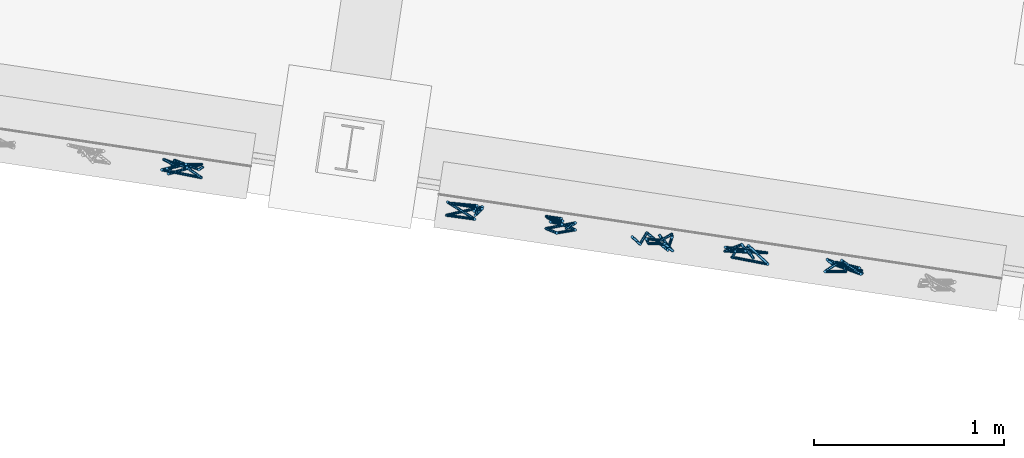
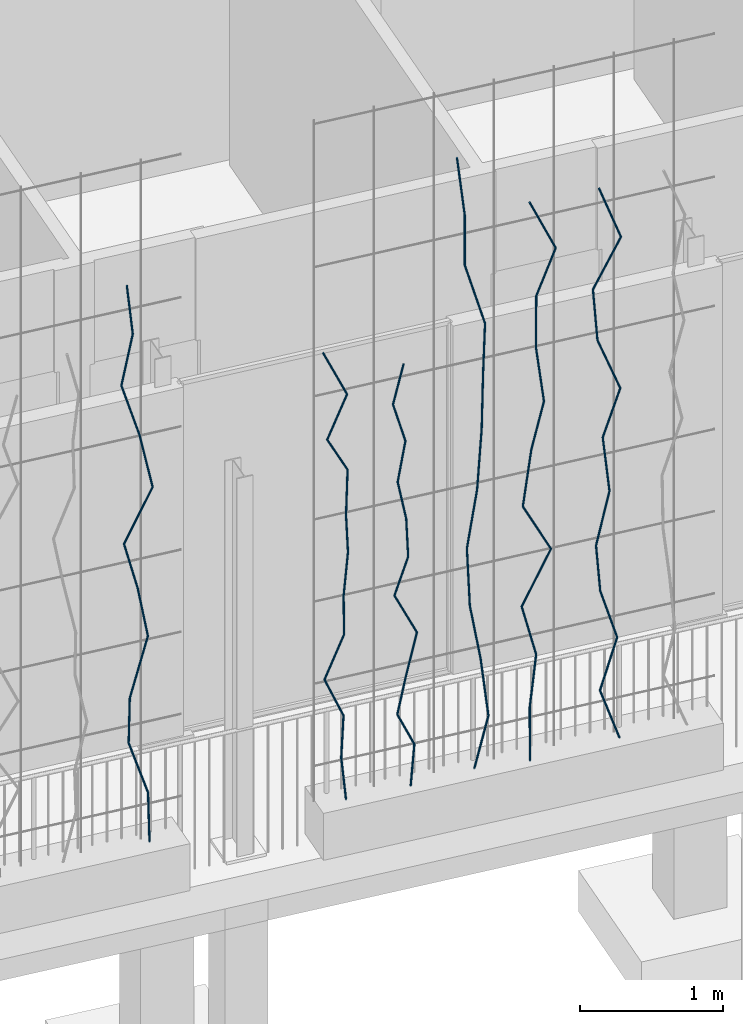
# One storey, part 121 of 143: 66 members, 1 element without a shape of its own.
"""IFC4 building model written with IfcOpenShell, lengths in metres."""

from ifc_helpers import new_model, si_unit, direction, frame, origin_with_axes, place, context, subcontext, project, spatial, circle, extrude, material, material_profile, profile_set, profile_usage, type_object, element, aggregate, save


model = new_model("IFC4")

# Units and contexts
model_context = context("Model", 3, precision=1e-05, world=origin_with_axes(), true_north=direction((0.0, 1.0)))
body_context = subcontext(model_context, "Body", "Model", "MODEL_VIEW")
ifc_project = project(units=[si_unit("VOLUMEUNIT", "CUBIC_METRE"), si_unit("LENGTHUNIT", "METRE"), si_unit("AREAUNIT", "SQUARE_METRE")], contexts=[model_context])

# Site, building, storey
site_placement = place(None, origin_with_axes())
site = spatial("IfcSite", under=ifc_project, at=site_placement, Name="Lares · Rua das Mercês · artigo 4771")
building_placement = place(site_placement, frame((15.0, 9.7, 15.8), z_axis=(0.0, 0.0, 1.0), x_axis=(0.989015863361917, -0.147809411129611, 0.0)))
building = spatial("IfcBuilding", under=site, at=building_placement, Name="Casa Sobreposta")
storey_placement = place(building_placement, origin_with_axes())
storey = spatial("IfcBuildingStorey", under=building, at=storey_placement, Name="00 · Habitação e estacionamento", Elevation=15.8)

# Assembly, members
assembly_placement = place(storey_placement, origin_with_axes())
assembly = element("IfcElementAssembly", 1, at=assembly_placement, inside=storey, Name="Fachada sul e pátio · estrutura e trepadeiras", ObjectType="LIVING_SHADE_TRELLIS", PredefinedType="USERDEFINED")
ifc_material = material(Name="Ramos de trepadeiras", Category="wood")
ifc_material_profile = material_profile(ifc_material, circle(Radius=0.0075))
ifc_profile_set = profile_set([ifc_material_profile], Name="D0.015")
ifc_profile_usage_1 = profile_usage(ifc_profile_set)
member_type = type_object("IfcMemberType", Name="D0.015 / vine_wood", PredefinedType="NOTDEFINED", material=ifc_profile_set)
member_1_placement = place(assembly_placement, frame((11.248102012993, -1.65190370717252, 0.35), z_axis=(-0.0386935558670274, -0.034357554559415, 0.998660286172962), x_axis=(-0.663967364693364, 0.747761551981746, 0.0)))
member_1 = element("IfcMember", 2, at=member_1_placement, type_object=member_type, material=ifc_profile_usage_1, Name="Trepadeiras · ramo", context=body_context, shape_type="SweptSolid", body=[
    extrude(circle(Radius=0.0075), origin_with_axes(), (0.0, 0.0, 1.0), 0.438063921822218),
])
ifc_profile_usage_2 = profile_usage(ifc_profile_set)
member_2_placement = place(assembly_placement, frame((11.2311517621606, -1.66695451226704, 0.787477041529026), z_axis=(-0.292111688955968, 0.0645743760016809, 0.954201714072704), x_axis=(0.215849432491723, 0.976426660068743, 0.0)))
member_2 = element("IfcMember", 3, at=member_2_placement, type_object=member_type, material=ifc_profile_usage_2, Name="Trepadeiras · ramo", context=body_context, shape_type="SweptSolid", body=[
    extrude(circle(Radius=0.0075), origin_with_axes(), (0.0, 0.0, 1.0), 0.458474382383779),
])
ifc_profile_usage_3 = profile_usage(ifc_profile_set)
member_3_placement = place(assembly_placement, frame((11.0972260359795, -1.63734881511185, 1.22495408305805), z_axis=(-0.0480043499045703, -0.17064406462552, 0.984162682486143), x_axis=(-0.962635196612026, 0.270801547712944, 0.0)))
member_3 = element("IfcMember", 4, at=member_3_placement, type_object=member_type, material=ifc_profile_usage_3, Name="Trepadeiras · ramo", context=body_context, shape_type="SweptSolid", body=[
    extrude(circle(Radius=0.0075), origin_with_axes(), (0.0, 0.0, 1.0), 0.44451699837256),
])
ifc_profile_usage_4 = profile_usage(ifc_profile_set)
member_4_placement = place(assembly_placement, frame((11.0758872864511, -1.71320300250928, 1.66243112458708), z_axis=(0.349610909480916, 0.159453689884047, 0.923226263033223), x_axis=(0.414966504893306, -0.909836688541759, 0.0)))
member_4 = element("IfcMember", 5, at=member_4_placement, type_object=member_type, material=ifc_profile_usage_4, Name="Trepadeiras · ramo", context=body_context, shape_type="SweptSolid", body=[
    extrude(circle(Radius=0.0075), origin_with_axes(), (0.0, 0.0, 1.0), 0.473856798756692),
])
ifc_profile_usage_5 = profile_usage(ifc_profile_set)
member_5_placement = place(assembly_placement, frame((11.2415527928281, -1.63764478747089, 2.09990816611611), z_axis=(-0.183712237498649, -0.026320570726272, 0.982627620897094), x_axis=(-0.141822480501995, 0.989892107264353, 0.0)))
member_5 = element("IfcMember", 6, at=member_5_placement, type_object=member_type, material=ifc_profile_usage_5, Name="Trepadeiras · ramo", context=body_context, shape_type="SweptSolid", body=[
    extrude(circle(Radius=0.0075), origin_with_axes(), (0.0, 0.0, 1.0), 0.445211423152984),
])
ifc_profile_usage_6 = profile_usage(ifc_profile_set)
member_6_placement = place(assembly_placement, frame((11.1597620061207, -1.64936300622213, 2.53738520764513), z_axis=(-0.265224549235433, -0.105236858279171, 0.958426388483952), x_axis=(-0.368812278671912, 0.92950390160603, 0.0)))
member_6 = element("IfcMember", 7, at=member_6_placement, type_object=member_type, material=ifc_profile_usage_6, Name="Trepadeiras · ramo", context=body_context, shape_type="SweptSolid", body=[
    extrude(circle(Radius=0.0075), origin_with_axes(), (0.0, 0.0, 1.0), 0.456453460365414),
])
ifc_profile_usage_7 = profile_usage(ifc_profile_set)
member_7_placement = place(assembly_placement, frame((11.0386993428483, -1.69739873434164, 2.97486224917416), z_axis=(0.434271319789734, -0.0200254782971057, 0.900559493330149), x_axis=(-0.0460638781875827, -0.998938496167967, 0.0)))
member_7 = element("IfcMember", 8, at=member_7_placement, type_object=member_type, material=ifc_profile_usage_7, Name="Trepadeiras · ramo", context=body_context, shape_type="SweptSolid", body=[
    extrude(circle(Radius=0.0075), origin_with_axes(), (0.0, 0.0, 1.0), 0.485783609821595),
])
ifc_profile_usage_8 = profile_usage(ifc_profile_set)
member_8_placement = place(assembly_placement, frame((11.2496612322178, -1.70712678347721, 3.41233929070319), z_axis=(-0.183988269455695, 0.092285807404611, 0.97858655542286), x_axis=(0.448346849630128, 0.893859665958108, 0.0)))
member_8 = element("IfcMember", 9, at=member_8_placement, type_object=member_type, material=ifc_profile_usage_8, Name="Trepadeiras · ramo", context=body_context, shape_type="SweptSolid", body=[
    extrude(circle(Radius=0.0075), origin_with_axes(), (0.0, 0.0, 1.0), 0.447049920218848),
])
ifc_profile_usage_9 = profile_usage(ifc_profile_set)
member_9_placement = place(assembly_placement, frame((11.1674092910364, -1.66587042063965, 3.84981633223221), z_axis=(-0.277576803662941, 0.0517158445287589, 0.959310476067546), x_axis=(0.183160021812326, 0.983083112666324, 0.0)))
member_9 = element("IfcMember", 10, at=member_9_placement, type_object=member_type, material=ifc_profile_usage_9, Name="Trepadeiras · ramo", context=body_context, shape_type="SweptSolid", body=[
    extrude(circle(Radius=0.0075), origin_with_axes(), (0.0, 0.0, 1.0), 0.456032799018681),
])
ifc_profile_usage_10 = profile_usage(ifc_profile_set)
member_10_placement = place(assembly_placement, frame((11.0408251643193, -1.64228629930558, 4.28729337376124), z_axis=(0.169074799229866, -0.0585839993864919, 0.983860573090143), x_axis=(-0.327400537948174, -0.944885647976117, 0.0)))
member_10 = element("IfcMember", 11, at=member_10_placement, type_object=member_type, material=ifc_profile_usage_10, Name="Trepadeiras · ramo", context=body_context, shape_type="SweptSolid", body=[
    extrude(circle(Radius=0.0075), origin_with_axes(), (0.0, 0.0, 1.0), 0.444653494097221),
])
ifc_profile_usage_11 = profile_usage(ifc_profile_set)
member_11_placement = place(assembly_placement, frame((11.1160048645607, -1.66833587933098, 4.72477041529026), z_axis=(-0.117255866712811, -0.0408900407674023, 0.992259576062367), x_axis=(-0.32927761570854, 0.944233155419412, 6.93059025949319e-18)))
member_11 = element("IfcMember", 12, at=member_11_placement, type_object=member_type, material=ifc_profile_usage_11, Name="Trepadeiras · ramo", context=body_context, shape_type="SweptSolid", body=[
    extrude(circle(Radius=0.0075), origin_with_axes(), (0.0, 0.0, 1.0), 0.440889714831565),
])
ifc_profile_usage_12 = profile_usage(ifc_profile_set)
member_12_placement = place(assembly_placement, frame((12.7127933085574, -1.67677360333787, 0.35), z_axis=(-0.0708595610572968, 0.0849373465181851, 0.993863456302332), x_axis=(0.767872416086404, 0.640602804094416, 0.0)))
member_12 = element("IfcMember", 13, at=member_12_placement, type_object=member_type, material=ifc_profile_usage_12, Name="Trepadeiras · ramo", context=body_context, shape_type="SweptSolid", body=[
    extrude(circle(Radius=0.0075), origin_with_axes(), (0.0, 0.0, 1.0), 0.350241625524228),
])
ifc_profile_usage_13 = profile_usage(ifc_profile_set)
member_13_placement = place(assembly_placement, frame((12.6879753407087, -1.64702500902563, 0.698092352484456), z_axis=(0.057899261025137, 0.0226262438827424, 0.998065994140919), x_axis=(0.363980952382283, -0.931406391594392, 0.0)))
member_13 = element("IfcMember", 14, at=member_13_placement, type_object=member_type, material=ifc_profile_usage_13, Name="Trepadeiras · ramo", context=body_context, shape_type="SweptSolid", body=[
    extrude(circle(Radius=0.0075), origin_with_axes(), (0.0, 0.0, 1.0), 0.348766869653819),
])
ifc_profile_usage_14 = profile_usage(ifc_profile_set)
member_14_placement = place(assembly_placement, frame((12.7081686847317, -1.63913372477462, 1.04618470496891), z_axis=(-0.385457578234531, -0.0204208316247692, 0.922499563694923), x_axis=(-0.0529039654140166, 0.998599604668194, 0.0)))
member_14 = element("IfcMember", 15, at=member_14_placement, type_object=member_type, material=ifc_profile_usage_14, Name="Trepadeiras · ramo", context=body_context, shape_type="SweptSolid", body=[
    extrude(circle(Radius=0.0075), origin_with_axes(), (0.0, 0.0, 1.0), 0.377336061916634),
])
ifc_profile_usage_15 = profile_usage(ifc_profile_set)
member_15_placement = place(assembly_placement, frame((12.5627216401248, -1.64683924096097, 1.39427705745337), z_axis=(0.386179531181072, -0.00507439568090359, 0.922409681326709), x_axis=(-0.0131388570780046, -0.9999136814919, 0.0)))
member_15 = element("IfcMember", 16, at=member_15_placement, type_object=member_type, material=ifc_profile_usage_15, Name="Trepadeiras · ramo", context=body_context, shape_type="SweptSolid", body=[
    extrude(circle(Radius=0.0075), origin_with_axes(), (0.0, 0.0, 1.0), 0.377372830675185),
])
ifc_profile_usage_16 = profile_usage(ifc_profile_set)
member_16_placement = place(assembly_placement, frame((12.7084553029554, -1.64875418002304, 1.74236940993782), z_axis=(-0.0306176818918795, -0.0562072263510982, 0.997949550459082), x_axis=(-0.878163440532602, 0.478360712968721, 0.0)))
member_16 = element("IfcMember", 17, at=member_16_placement, type_object=member_type, material=ifc_profile_usage_16, Name="Trepadeiras · ramo", context=body_context, shape_type="SweptSolid", body=[
    extrude(circle(Radius=0.0075), origin_with_axes(), (0.0, 0.0, 1.0), 0.348807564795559),
])
ifc_profile_usage_17 = profile_usage(ifc_profile_set)
member_17_placement = place(assembly_placement, frame((12.697775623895, -1.66835968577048, 2.09046176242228), z_axis=(0.112899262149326, 0.0509051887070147, 0.992301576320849), x_axis=(0.411039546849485, -0.911617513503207, 0.0)))
member_17 = element("IfcMember", 18, at=member_17_placement, type_object=member_type, material=ifc_profile_usage_17, Name="Trepadeiras · ramo", context=body_context, shape_type="SweptSolid", body=[
    extrude(circle(Radius=0.0075), origin_with_axes(), (0.0, 0.0, 1.0), 0.350792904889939),
])
ifc_profile_usage_18 = profile_usage(ifc_profile_set)
member_18_placement = place(assembly_placement, frame((12.7373798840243, -1.65050250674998, 2.43855411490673), z_axis=(-0.0853498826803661, -0.110841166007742, 0.990166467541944), x_axis=(-0.792321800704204, 0.610103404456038, 0.0)))
member_18 = element("IfcMember", 19, at=member_18_placement, type_object=member_type, material=ifc_profile_usage_18, Name="Trepadeiras · ramo", context=body_context, shape_type="SweptSolid", body=[
    extrude(circle(Radius=0.0075), origin_with_axes(), (0.0, 0.0, 1.0), 0.351549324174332),
])
ifc_profile_usage_19 = profile_usage(ifc_profile_set)
member_19_placement = place(assembly_placement, frame((12.7073751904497, -1.68946864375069, 2.78664646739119), z_axis=(0.0869008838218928, 0.137266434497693, 0.986714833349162), x_axis=(0.844915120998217, -0.534900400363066, 0.0)))
member_19 = element("IfcMember", 20, at=member_19_placement, type_object=member_type, material=ifc_profile_usage_19, Name="Trepadeiras · ramo", context=body_context, shape_type="SweptSolid", body=[
    extrude(circle(Radius=0.0075), origin_with_axes(), (0.0, 0.0, 1.0), 0.352779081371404),
])
ifc_profile_usage_20 = profile_usage(ifc_profile_set)
member_20_placement = place(assembly_placement, frame((12.7380320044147, -1.64104391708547, 3.13473881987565), z_axis=(-0.45311315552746, -0.178326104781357, 0.873434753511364), x_axis=(-0.366216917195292, 0.930529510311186, 0.0)))
member_20 = element("IfcMember", 21, at=member_20_placement, type_object=member_type, material=ifc_profile_usage_20, Name="Trepadeiras · ramo", context=body_context, shape_type="SweptSolid", body=[
    extrude(circle(Radius=0.0075), origin_with_axes(), (0.0, 0.0, 1.0), 0.398532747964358),
])
ifc_profile_usage_21 = profile_usage(ifc_profile_set)
member_21_placement = place(assembly_placement, frame((12.5574515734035, -1.71211270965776, 3.4828311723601), z_axis=(0.394669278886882, 0.00436643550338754, 0.918812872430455), x_axis=(0.0110628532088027, -0.999938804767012, 0.0)))
member_21 = element("IfcMember", 22, at=member_21_placement, type_object=member_type, material=ifc_profile_usage_21, Name="Trepadeiras · ramo", context=body_context, shape_type="SweptSolid", body=[
    extrude(circle(Radius=0.0075), origin_with_axes(), (0.0, 0.0, 1.0), 0.378850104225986),
])
ifc_profile_usage_22 = profile_usage(ifc_profile_set)
member_22_placement = place(assembly_placement, frame((12.7069720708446, -1.71045848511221, 3.83092352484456), z_axis=(-0.397772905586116, 0.174983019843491, 0.900642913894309), x_axis=(0.40266716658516, 0.915346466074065, 0.0)))
member_22 = element("IfcMember", 23, at=member_22_placement, type_object=member_type, material=ifc_profile_usage_22, Name="Trepadeiras · ramo", context=body_context, shape_type="SweptSolid", body=[
    extrude(circle(Radius=0.0075), origin_with_axes(), (0.0, 0.0, 1.0), 0.386493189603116),
])
ifc_profile_usage_23 = profile_usage(ifc_profile_set)
member_23_placement = place(assembly_placement, frame((13.1925460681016, -1.68798436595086, 0.35), z_axis=(0.129026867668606, 0.110183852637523, 0.985500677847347), x_axis=(0.64939521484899, -0.760451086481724, 0.0)))
member_23 = element("IfcMember", 24, at=member_23_placement, type_object=member_type, material=ifc_profile_usage_23, Name="Trepadeiras · ramo", context=body_context, shape_type="SweptSolid", body=[
    extrude(circle(Radius=0.0075), origin_with_axes(), (0.0, 0.0, 1.0), 0.330027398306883),
])
ifc_profile_usage_24 = profile_usage(ifc_profile_set)
member_24_placement = place(assembly_placement, frame((13.23512846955, -1.65162067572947, 0.67524222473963), z_axis=(-0.411476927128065, -0.144758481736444, 0.899850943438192), x_axis=(-0.33186451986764, 0.943327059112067, 0.0)))
member_24 = element("IfcMember", 25, at=member_24_placement, type_object=member_type, material=ifc_profile_usage_24, Name="Trepadeiras · ramo", context=body_context, shape_type="SweptSolid", body=[
    extrude(circle(Radius=0.0075), origin_with_axes(), (0.0, 0.0, 1.0), 0.36144011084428),
])
ifc_profile_usage_25 = profile_usage(ifc_profile_set)
member_25_placement = place(assembly_placement, frame((13.0864042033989, -1.70394219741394, 1.00048444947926), z_axis=(0.179994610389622, -0.0444622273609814, 0.982662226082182), x_axis=(-0.239811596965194, -0.970819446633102, 0.0)))
member_25 = element("IfcMember", 26, at=member_25_placement, type_object=member_type, material=ifc_profile_usage_25, Name="Trepadeiras · ramo", context=body_context, shape_type="SweptSolid", body=[
    extrude(circle(Radius=0.0075), origin_with_axes(), (0.0, 0.0, 1.0), 0.330980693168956),
])
ifc_profile_usage_26 = profile_usage(ifc_profile_set)
member_26_placement = place(assembly_placement, frame((13.1459789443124, -1.71865833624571, 1.32572667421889), z_axis=(0.276463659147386, 0.0892506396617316, 0.956871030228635), x_axis=(0.307217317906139, -0.951639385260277, 0.0)))
member_26 = element("IfcMember", 27, at=member_26_placement, type_object=member_type, material=ifc_profile_usage_26, Name="Trepadeiras · ramo", context=body_context, shape_type="SweptSolid", body=[
    extrude(circle(Radius=0.0075), origin_with_axes(), (0.0, 0.0, 1.0), 0.339901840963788),
])
ifc_profile_usage_27 = profile_usage(ifc_profile_set)
member_27_placement = place(assembly_placement, frame((13.2399494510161, -1.68832187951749, 1.65096889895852), z_axis=(-0.421792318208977, 0.114762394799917, 0.899400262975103), x_axis=(0.262538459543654, 0.964921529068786, 0.0)))
member_27 = element("IfcMember", 28, at=member_27_placement, type_object=member_type, material=ifc_profile_usage_27, Name="Trepadeiras · ramo", context=body_context, shape_type="SweptSolid", body=[
    extrude(circle(Radius=0.0075), origin_with_axes(), (0.0, 0.0, 1.0), 0.361621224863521),
])
ifc_profile_usage_28 = profile_usage(ifc_profile_set)
member_28_placement = place(assembly_placement, frame((13.0874203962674, -1.64682136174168, 1.97621112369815), z_axis=(0.271964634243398, -0.0801035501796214, 0.958967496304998), x_axis=(-0.282536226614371, -0.959256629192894, 0.0)))
member_28 = element("IfcMember", 29, at=member_28_placement, type_object=member_type, material=ifc_profile_usage_28, Name="Trepadeiras · ramo", context=body_context, shape_type="SweptSolid", body=[
    extrude(circle(Radius=0.0075), origin_with_axes(), (0.0, 0.0, 1.0), 0.339158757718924),
])
ifc_profile_usage_29 = profile_usage(ifc_profile_set)
member_29_placement = place(assembly_placement, frame((13.1796595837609, -1.67398918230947, 2.30145334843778), z_axis=(-0.040604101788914, 0.0113517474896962, 0.999110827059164), x_axis=(0.999175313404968, 0.000461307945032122, 0.0406014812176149)))
member_29 = element("IfcMember", 30, at=member_29_placement, type_object=member_type, material=ifc_profile_usage_29, Name="Trepadeiras · ramo", context=body_context, shape_type="SweptSolid", body=[
    extrude(circle(Radius=0.0075), origin_with_axes(), (0.0, 0.0, 1.0), 0.325531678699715),
])
ifc_profile_usage_30 = profile_usage(ifc_profile_set)
member_30_placement = place(assembly_placement, frame((13.1664416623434, -1.67029382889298, 2.62669557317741), z_axis=(-0.187987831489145, 0.0134038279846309, 0.982079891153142), x_axis=(0.0711210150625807, 0.997467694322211, 0.0)))
member_30 = element("IfcMember", 31, at=member_30_placement, type_object=member_type, material=ifc_profile_usage_30, Name="Trepadeiras · ramo", context=body_context, shape_type="SweptSolid", body=[
    extrude(circle(Radius=0.0075), origin_with_axes(), (0.0, 0.0, 1.0), 0.33117695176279),
])
ifc_profile_usage_31 = profile_usage(ifc_profile_set)
member_31_placement = place(assembly_placement, frame((13.1041844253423, -1.66585478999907, 2.95193779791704), z_axis=(0.191647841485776, 0.0413064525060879, 0.980594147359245), x_axis=(0.210694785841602, -0.977551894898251, 0.0)))
member_31 = element("IfcMember", 32, at=member_31_placement, type_object=member_type, material=ifc_profile_usage_31, Name="Trepadeiras · ramo", context=body_context, shape_type="SweptSolid", body=[
    extrude(circle(Radius=0.0075), origin_with_axes(), (0.0, 0.0, 1.0), 0.331678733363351),
])
ifc_profile_usage_32 = profile_usage(ifc_profile_set)
member_32_placement = place(assembly_placement, frame((13.1677499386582, -1.65215431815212, 3.27718002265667), z_axis=(-0.263247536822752, 0.0336082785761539, 0.964142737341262), x_axis=(0.126640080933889, 0.991948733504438, 0.0)))
member_32 = element("IfcMember", 33, at=member_32_placement, type_object=member_type, material=ifc_profile_usage_32, Name="Trepadeiras · ramo", context=body_context, shape_type="SweptSolid", body=[
    extrude(circle(Radius=0.0075), origin_with_axes(), (0.0, 0.0, 1.0), 0.337338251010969),
])
ifc_profile_usage_33 = profile_usage(ifc_profile_set)
member_33_placement = place(assembly_placement, frame((13.0789464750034, -1.64081696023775, 3.6024222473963), z_axis=(0.237284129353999, -0.000512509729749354, 0.97144015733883), x_axis=(-0.00215989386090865, -0.999997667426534, -5.54838557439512e-20)))
member_33 = element("IfcMember", 34, at=member_33_placement, type_object=member_type, material=ifc_profile_usage_33, Name="Trepadeiras · ramo", context=body_context, shape_type="SweptSolid", body=[
    extrude(circle(Radius=0.0075), origin_with_axes(), (0.0, 0.0, 1.0), 0.334804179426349),
])
ifc_profile_usage_34 = profile_usage(ifc_profile_set)
member_34_placement = place(assembly_placement, frame((13.68386961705, -1.65181034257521, 0.35), z_axis=(0.161421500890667, -0.142844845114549, 0.976492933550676), x_axis=(-0.662701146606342, -0.748883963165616, 0.0)))
member_34 = element("IfcMember", 35, at=member_34_placement, type_object=member_type, material=ifc_profile_usage_34, Name="Trepadeiras · ramo", context=body_context, shape_type="SweptSolid", body=[
    extrude(circle(Radius=0.0075), origin_with_axes(), (0.0, 0.0, 1.0), 0.489888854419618),
])
ifc_profile_usage_35 = profile_usage(ifc_profile_set)
member_35_placement = place(assembly_placement, frame((13.7629482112, -1.72178844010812, 0.828373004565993), z_axis=(-0.0969288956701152, 0.0636689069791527, 0.993252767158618), x_axis=(0.54901392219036, 0.835813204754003, 0.0)))
member_35 = element("IfcMember", 36, at=member_35_placement, type_object=member_type, material=ifc_profile_usage_35, Name="Trepadeiras · ramo", context=body_context, shape_type="SweptSolid", body=[
    extrude(circle(Radius=0.0075), origin_with_axes(), (0.0, 0.0, 1.0), 0.481622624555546),
])
ifc_profile_usage_36 = profile_usage(ifc_profile_set)
member_36_placement = place(assembly_placement, frame((13.7162650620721, -1.69112405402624, 1.30674600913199), z_axis=(-0.174459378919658, -0.0213396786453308, 0.984433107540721), x_axis=(-0.121413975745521, 0.992601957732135, 0.0)))
member_36 = element("IfcMember", 37, at=member_36_placement, type_object=member_type, material=ifc_profile_usage_36, Name="Trepadeiras · ramo", context=body_context, shape_type="SweptSolid", body=[
    extrude(circle(Radius=0.0075), origin_with_axes(), (0.0, 0.0, 1.0), 0.485937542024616),
])
ifc_profile_usage_37 = profile_usage(ifc_profile_set)
member_37_placement = place(assembly_placement, frame((13.6314887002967, -1.70149380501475, 1.78511901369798), z_axis=(-0.0282536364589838, 0.0454968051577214, 0.998564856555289), x_axis=(0.849521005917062, 0.527554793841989, 0.0)))
member_37 = element("IfcMember", 38, at=member_37_placement, type_object=member_type, material=ifc_profile_usage_37, Name="Trepadeiras · ramo", context=body_context, shape_type="SweptSolid", body=[
    extrude(circle(Radius=0.0075), origin_with_axes(), (0.0, 0.0, 1.0), 0.479060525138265),
])
ifc_profile_usage_38 = profile_usage(ifc_profile_set)
member_38_placement = place(assembly_placement, frame((13.6179534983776, -1.67969808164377, 2.26349201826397), z_axis=(0.161830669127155, 0.00911167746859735, 0.986776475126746), x_axis=(0.0562147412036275, -0.99841870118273, 0.0)))
member_38 = element("IfcMember", 39, at=member_38_placement, type_object=member_type, material=ifc_profile_usage_38, Name="Trepadeiras · ramo", context=body_context, shape_type="SweptSolid", body=[
    extrude(circle(Radius=0.0075), origin_with_axes(), (0.0, 0.0, 1.0), 0.484783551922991),
])
ifc_profile_usage_39 = profile_usage(ifc_profile_set)
member_39_placement = place(assembly_placement, frame((13.6964063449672, -1.67528089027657, 2.74186502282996), z_axis=(0.103521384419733, 0.0829303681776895, 0.991163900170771), x_axis=(0.625215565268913, -0.78045211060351, 0.0)))
member_39 = element("IfcMember", 40, at=member_39_placement, type_object=member_type, material=ifc_profile_usage_39, Name="Trepadeiras · ramo", context=body_context, shape_type="SweptSolid", body=[
    extrude(circle(Radius=0.0075), origin_with_axes(), (0.0, 0.0, 1.0), 0.482637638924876),
])
ifc_profile_usage_40 = profile_usage(ifc_profile_set)
member_40_placement = place(assembly_placement, frame((13.7463696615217, -1.63525557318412, 3.22023802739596), z_axis=(0.00716802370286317, -0.0369485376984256, 0.999291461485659), x_axis=(0.999974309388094, 0.000264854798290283, -0.00716312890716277)))
member_40 = element("IfcMember", 41, at=member_40_placement, type_object=member_type, material=ifc_profile_usage_40, Name="Trepadeiras · ramo", context=body_context, shape_type="SweptSolid", body=[
    extrude(circle(Radius=0.0075), origin_with_axes(), (0.0, 0.0, 1.0), 0.478712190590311),
])
ifc_profile_usage_41 = profile_usage(ifc_profile_set)
member_41_placement = place(assembly_placement, frame((13.7498010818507, -1.65294328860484, 3.69861103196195), z_axis=(-0.0249719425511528, -0.141403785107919, 0.98963698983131), x_axis=(-0.984761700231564, 0.173909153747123, 0.0)))
member_41 = element("IfcMember", 42, at=member_41_placement, type_object=member_type, material=ifc_profile_usage_41, Name="Trepadeiras · ramo", context=body_context, shape_type="SweptSolid", body=[
    extrude(circle(Radius=0.0075), origin_with_axes(), (0.0, 0.0, 1.0), 0.483382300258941),
])
ifc_profile_usage_42 = profile_usage(ifc_profile_set)
member_42_placement = place(assembly_placement, frame((13.7377300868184, -1.72129537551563, 4.17698403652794), z_axis=(-0.245772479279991, 0.147078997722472, 0.958104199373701), x_axis=(0.513508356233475, 0.85808459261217, 0.0)))
member_42 = element("IfcMember", 43, at=member_42_placement, type_object=member_type, material=ifc_profile_usage_42, Name="Trepadeiras · ramo", context=body_context, shape_type="SweptSolid", body=[
    extrude(circle(Radius=0.0075), origin_with_axes(), (0.0, 0.0, 1.0), 0.499291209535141),
])
ifc_profile_usage_43 = profile_usage(ifc_profile_set)
member_43_placement = place(assembly_placement, frame((13.6150180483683, -1.64786012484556, 4.65535704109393), z_axis=(-0.0539158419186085, -0.132242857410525, 0.989749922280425), x_axis=(-0.92599661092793, 0.37753182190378, 6.01122396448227e-18)))
member_43 = element("IfcMember", 44, at=member_43_placement, type_object=member_type, material=ifc_profile_usage_43, Name="Trepadeiras · ramo", context=body_context, shape_type="SweptSolid", body=[
    extrude(circle(Radius=0.0075), origin_with_axes(), (0.0, 0.0, 1.0), 0.483327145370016),
])
ifc_profile_usage_44 = profile_usage(ifc_profile_set)
member_44_placement = place(assembly_placement, frame((13.5889590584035, -1.71177668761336, 5.13373004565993), z_axis=(-0.0954146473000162, 0.0639742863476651, 0.993379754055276), x_axis=(0.556895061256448, 0.830582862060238, 0.0)))
member_44 = element("IfcMember", 45, at=member_44_placement, type_object=member_type, material=ifc_profile_usage_44, Name="Trepadeiras · ramo", context=body_context, shape_type="SweptSolid", body=[
    extrude(circle(Radius=0.0075), origin_with_axes(), (0.0, 0.0, 1.0), 0.481561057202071),
])
ifc_profile_usage_45 = profile_usage(ifc_profile_set)
member_45_placement = place(assembly_placement, frame((14.0801023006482, -1.70934968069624, 0.35), z_axis=(0.0242468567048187, 0.0771941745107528, 0.996721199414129), x_axis=(0.954043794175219, -0.299667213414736, 0.0)))
member_45 = element("IfcMember", 46, at=member_45_placement, type_object=member_type, material=ifc_profile_usage_45, Name="Trepadeiras · ramo", context=body_context, shape_type="SweptSolid", body=[
    extrude(circle(Radius=0.0075), origin_with_axes(), (0.0, 0.0, 1.0), 0.434431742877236),
])
ifc_profile_usage_46 = profile_usage(ifc_profile_set)
member_46_placement = place(assembly_placement, frame((14.0906359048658, -1.67581408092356, 0.783007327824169), z_axis=(0.120375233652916, 0.0239402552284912, 0.992439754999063), x_axis=(0.195060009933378, -0.980791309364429, 0.0)))
member_46 = element("IfcMember", 47, at=member_46_placement, type_object=member_type, material=ifc_profile_usage_46, Name="Trepadeiras · ramo", context=body_context, shape_type="SweptSolid", body=[
    extrude(circle(Radius=0.0075), origin_with_axes(), (0.0, 0.0, 1.0), 0.436305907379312),
])
ifc_profile_usage_47 = profile_usage(ifc_profile_set)
member_47_placement = place(assembly_placement, frame((14.1431563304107, -1.6653688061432, 1.21601465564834), z_axis=(-0.239967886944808, 0.00779781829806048, 0.970749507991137), x_axis=(0.0324781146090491, 0.999472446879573, 0.0)))
member_47 = element("IfcMember", 48, at=member_47_placement, type_object=member_type, material=ifc_profile_usage_47, Name="Trepadeiras · ramo", context=body_context, shape_type="SweptSolid", body=[
    extrude(circle(Radius=0.0075), origin_with_axes(), (0.0, 0.0, 1.0), 0.446054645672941),
])
ifc_profile_usage_48 = profile_usage(ifc_profile_set)
member_48_placement = place(assembly_placement, frame((14.0361175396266, -1.66189055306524, 1.64902198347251), z_axis=(0.454417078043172, 0.00664542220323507, 0.890764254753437), x_axis=(0.0146224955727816, -0.999893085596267, 0.0)))
member_48 = element("IfcMember", 49, at=member_48_placement, type_object=member_type, material=ifc_profile_usage_48, Name="Trepadeiras · ramo", context=body_context, shape_type="SweptSolid", body=[
    extrude(circle(Radius=0.0075), origin_with_axes(), (0.0, 0.0, 1.0), 0.486107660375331),
])
ifc_profile_usage_49 = profile_usage(ifc_profile_set)
member_49_placement = place(assembly_placement, frame((14.2570131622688, -1.65866016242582, 2.08202931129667), z_axis=(-0.452892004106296, -0.0486535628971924, 0.890236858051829), x_axis=(-0.106814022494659, 0.994279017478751, 0.0)))
member_49 = element("IfcMember", 50, at=member_49_placement, type_object=member_type, material=ifc_profile_usage_49, Name="Trepadeiras · ramo", context=body_context, shape_type="SweptSolid", body=[
    extrude(circle(Radius=0.0075), origin_with_axes(), (0.0, 0.0, 1.0), 0.486395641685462),
])
ifc_profile_usage_50 = profile_usage(ifc_profile_set)
member_50_placement = place(assembly_placement, frame((14.0367284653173, -1.68232504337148, 2.51503663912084), z_axis=(0.185178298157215, 0.106445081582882, 0.976922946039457), x_axis=(0.498356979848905, -0.866971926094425, 0.0)))
member_50 = element("IfcMember", 51, at=member_50_placement, type_object=member_type, material=ifc_profile_usage_50, Name="Trepadeiras · ramo", context=body_context, shape_type="SweptSolid", body=[
    extrude(circle(Radius=0.0075), origin_with_axes(), (0.0, 0.0, 1.0), 0.44323590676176),
])
ifc_profile_usage_51 = profile_usage(ifc_profile_set)
member_51_placement = place(assembly_placement, frame((14.1188061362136, -1.63514476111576, 2.94804396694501), z_axis=(0.16008716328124, -0.137571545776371, 0.977469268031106), x_axis=(-0.651757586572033, -0.758427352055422, 0.0)))
member_51 = element("IfcMember", 52, at=member_51_placement, type_object=member_type, material=ifc_profile_usage_51, Name="Trepadeiras · ramo", context=body_context, shape_type="SweptSolid", body=[
    extrude(circle(Radius=0.0075), origin_with_axes(), (0.0, 0.0, 1.0), 0.442988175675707),
])
ifc_profile_usage_52 = profile_usage(ifc_profile_set)
member_52_placement = place(assembly_placement, frame((14.1897228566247, -1.69608732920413, 3.38105129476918), z_axis=(-0.0964124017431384, 0.098577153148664, 0.990447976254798), x_axis=(0.714912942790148, 0.699213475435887, 0.0)))
member_52 = element("IfcMember", 53, at=member_52_placement, type_object=member_type, material=ifc_profile_usage_52, Name="Trepadeiras · ramo", context=body_context, shape_type="SweptSolid", body=[
    extrude(circle(Radius=0.0075), origin_with_axes(), (0.0, 0.0, 1.0), 0.437183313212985),
])
ifc_profile_usage_53 = profile_usage(ifc_profile_set)
member_53_placement = place(assembly_placement, frame((14.1475729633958, -1.65299104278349, 3.81405862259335), z_axis=(0.0181112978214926, 0.0402266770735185, 0.999026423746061), x_axis=(0.999835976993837, -0.000728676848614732, -0.0180966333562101)))
member_53 = element("IfcMember", 54, at=member_53_placement, type_object=member_type, material=ifc_profile_usage_53, Name="Trepadeiras · ramo", context=body_context, shape_type="SweptSolid", body=[
    extrude(circle(Radius=0.0075), origin_with_axes(), (0.0, 0.0, 1.0), 0.433429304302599),
])
ifc_profile_usage_54 = profile_usage(ifc_profile_set)
member_54_placement = place(assembly_placement, frame((14.1554229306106, -1.63555562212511, 4.24706595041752), z_axis=(0.251645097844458, -0.177773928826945, 0.951352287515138), x_axis=(-0.576990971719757, -0.816750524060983, 0.0)))
member_54 = element("IfcMember", 55, at=member_54_placement, type_object=member_type, material=ifc_profile_usage_54, Name="Trepadeiras · ramo", context=body_context, shape_type="SweptSolid", body=[
    extrude(circle(Radius=0.0075), origin_with_axes(), (0.0, 0.0, 1.0), 0.455149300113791),
])
ifc_profile_usage_55 = profile_usage(ifc_profile_set)
member_55_placement = place(assembly_placement, frame((14.2699590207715, -1.71646930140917, 4.68007327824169), z_axis=(-0.406842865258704, 0.0169823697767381, 0.913340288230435), x_axis=(0.0417055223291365, 0.999129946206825, 0.0)))
member_55 = element("IfcMember", 56, at=member_55_placement, type_object=member_type, material=ifc_profile_usage_55, Name="Trepadeiras · ramo", context=body_context, shape_type="SweptSolid", body=[
    extrude(circle(Radius=0.0075), origin_with_axes(), (0.0, 0.0, 1.0), 0.474092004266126),
])
ifc_profile_usage_56 = profile_usage(ifc_profile_set)
member_56_placement = place(assembly_placement, frame((14.7652704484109, -1.6778966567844, 0.35), z_axis=(-0.30796633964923, 0.052787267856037, 0.949931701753), x_axis=(0.168942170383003, 0.985625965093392, 0.0)))
member_56 = element("IfcMember", 57, at=member_56_placement, type_object=member_type, material=ifc_profile_usage_56, Name="Trepadeiras · ramo", context=body_context, shape_type="SweptSolid", body=[
    extrude(circle(Radius=0.0075), origin_with_axes(), (0.0, 0.0, 1.0), 0.450587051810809),
])
ifc_profile_usage_57 = profile_usage(ifc_profile_set)
member_57_placement = place(assembly_placement, frame((14.6265048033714, -1.654111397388, 0.778026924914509), z_axis=(0.278700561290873, -0.0263394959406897, 0.960016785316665), x_axis=(-0.0940889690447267, -0.995563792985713, 0.0)))
member_57 = element("IfcMember", 58, at=member_57_placement, type_object=member_type, material=ifc_profile_usage_57, Name="Trepadeiras · ramo", context=body_context, shape_type="SweptSolid", body=[
    extrude(circle(Radius=0.0075), origin_with_axes(), (0.0, 0.0, 1.0), 0.445853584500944),
])
ifc_profile_usage_58 = profile_usage(ifc_profile_set)
member_58_placement = place(assembly_placement, frame((14.7507644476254, -1.66585495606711, 1.20605384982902), z_axis=(-0.284107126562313, 0.00180733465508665, 0.958790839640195), x_axis=(0.00636132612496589, 0.99997976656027, 0.0)))
member_58 = element("IfcMember", 59, at=member_58_placement, type_object=member_type, material=ifc_profile_usage_58, Name="Trepadeiras · ramo", context=body_context, shape_type="SweptSolid", body=[
    extrude(circle(Radius=0.0075), origin_with_axes(), (0.0, 0.0, 1.0), 0.446423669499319),
])
ifc_profile_usage_59 = profile_usage(ifc_profile_set)
member_59_placement = place(assembly_placement, frame((14.6239323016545, -1.66504811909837, 1.63408077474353), z_axis=(-0.114140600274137, -0.105855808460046, 0.987808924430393), x_axis=(-0.679996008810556, 0.733215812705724, 0.0)))
member_59 = element("IfcMember", 60, at=member_59_placement, type_object=member_type, material=ifc_profile_usage_59, Name="Trepadeiras · ramo", context=body_context, shape_type="SweptSolid", body=[
    extrude(circle(Radius=0.0075), origin_with_axes(), (0.0, 0.0, 1.0), 0.433309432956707),
])
ifc_profile_usage_60 = profile_usage(ifc_profile_set)
member_60_placement = place(assembly_placement, frame((14.5744741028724, -1.71091643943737, 2.06210769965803), z_axis=(0.242351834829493, 0.0355919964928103, 0.96953535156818), x_axis=(0.145302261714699, -0.989387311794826, 0.0)))
member_60 = element("IfcMember", 61, at=member_60_placement, type_object=member_type, material=ifc_profile_usage_60, Name="Trepadeiras · ramo", context=body_context, shape_type="SweptSolid", body=[
    extrude(circle(Radius=0.0075), origin_with_axes(), (0.0, 0.0, 1.0), 0.441476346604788),
])
ifc_profile_usage_61 = profile_usage(ifc_profile_set)
member_61_placement = place(assembly_placement, frame((14.6814667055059, -1.69520341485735, 2.49013462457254), z_axis=(-0.0667873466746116, 0.126541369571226, 0.989710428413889), x_axis=(0.88438006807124, 0.466767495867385, 0.0)))
member_61 = element("IfcMember", 62, at=member_61_placement, type_object=member_type, material=ifc_profile_usage_61, Name="Trepadeiras · ramo", context=body_context, shape_type="SweptSolid", body=[
    extrude(circle(Radius=0.0075), origin_with_axes(), (0.0, 0.0, 1.0), 0.432476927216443),
])
ifc_profile_usage_62 = profile_usage(ifc_profile_set)
member_62_placement = place(assembly_placement, frame((14.6525827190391, -1.64047719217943, 2.91816154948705), z_axis=(0.246034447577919, -0.124841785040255, 0.961187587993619), x_axis=(-0.452496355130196, -0.891766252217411, 0.0)))
member_62 = element("IfcMember", 63, at=member_62_placement, type_object=member_type, material=ifc_profile_usage_62, Name="Trepadeiras · ramo", context=body_context, shape_type="SweptSolid", body=[
    extrude(circle(Radius=0.0075), origin_with_axes(), (0.0, 0.0, 1.0), 0.445310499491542),
])
ifc_profile_usage_63 = profile_usage(ifc_profile_set)
member_63_placement = place(assembly_placement, frame((14.7621444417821, -1.69607054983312, 3.34618847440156), z_axis=(-0.346624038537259, 0.069377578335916, 0.935434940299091), x_axis=(0.196259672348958, 0.980551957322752, 0.0)))
member_63 = element("IfcMember", 64, at=member_63_placement, type_object=member_type, material=ifc_profile_usage_63, Name="Trepadeiras · ramo", context=body_context, shape_type="SweptSolid", body=[
    extrude(circle(Radius=0.0075), origin_with_axes(), (0.0, 0.0, 1.0), 0.457569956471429),
])
ifc_profile_usage_64 = profile_usage(ifc_profile_set)
member_64_placement = place(assembly_placement, frame((14.6035396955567, -1.66432545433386, 3.77421539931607), z_axis=(-0.0629217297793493, 0.040966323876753, 0.997177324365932), x_axis=(0.545617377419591, 0.83803441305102, 0.0)))
member_64 = element("IfcMember", 65, at=member_64_placement, type_object=member_type, material=ifc_profile_usage_64, Name="Trepadeiras · ramo", context=body_context, shape_type="SweptSolid", body=[
    extrude(circle(Radius=0.0075), origin_with_axes(), (0.0, 0.0, 1.0), 0.429238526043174),
])
ifc_profile_usage_65 = profile_usage(ifc_profile_set)
member_65_placement = place(assembly_placement, frame((14.5765312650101, -1.6467411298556, 4.20224232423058), z_axis=(0.408014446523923, -0.0961506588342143, 0.907898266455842), x_axis=(-0.229372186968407, -0.97333878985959, 0.0)))
member_65 = element("IfcMember", 66, at=member_65_placement, type_object=member_type, material=ifc_profile_usage_65, Name="Trepadeiras · ramo", context=body_context, shape_type="SweptSolid", body=[
    extrude(circle(Radius=0.0075), origin_with_axes(), (0.0, 0.0, 1.0), 0.471448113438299),
])
ifc_profile_usage_66 = profile_usage(ifc_profile_set)
member_66_placement = place(assembly_placement, frame((14.7688889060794, -1.69207117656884, 4.63026924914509), z_axis=(-0.329981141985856, 0.0809074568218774, 0.940513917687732), x_axis=(0.238134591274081, 0.971232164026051, 0.0)))
member_66 = element("IfcMember", 67, at=member_66_placement, type_object=member_type, material=ifc_profile_usage_66, Name="Trepadeiras · ramo", context=body_context, shape_type="SweptSolid", body=[
    extrude(circle(Radius=0.0075), origin_with_axes(), (0.0, 0.0, 1.0), 0.45509898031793),
])
aggregate(assembly, [member_1, member_2, member_3, member_4, member_5, member_6, member_7, member_8, member_9, member_10, member_11, member_12, member_13, member_14, member_15, member_16, member_17, member_18, member_19, member_20, member_21, member_22, member_23, member_24, member_25, member_26, member_27, member_28, member_29, member_30, member_31, member_32, member_33, member_34, member_35, member_36, member_37, member_38, member_39, member_40, member_41, member_42, member_43, member_44, member_45, member_46, member_47, member_48, member_49, member_50, member_51, member_52, member_53, member_54, member_55, member_56, member_57, member_58, member_59, member_60, member_61, member_62, member_63, member_64, member_65, member_66])

save(model, "model.ifc")
